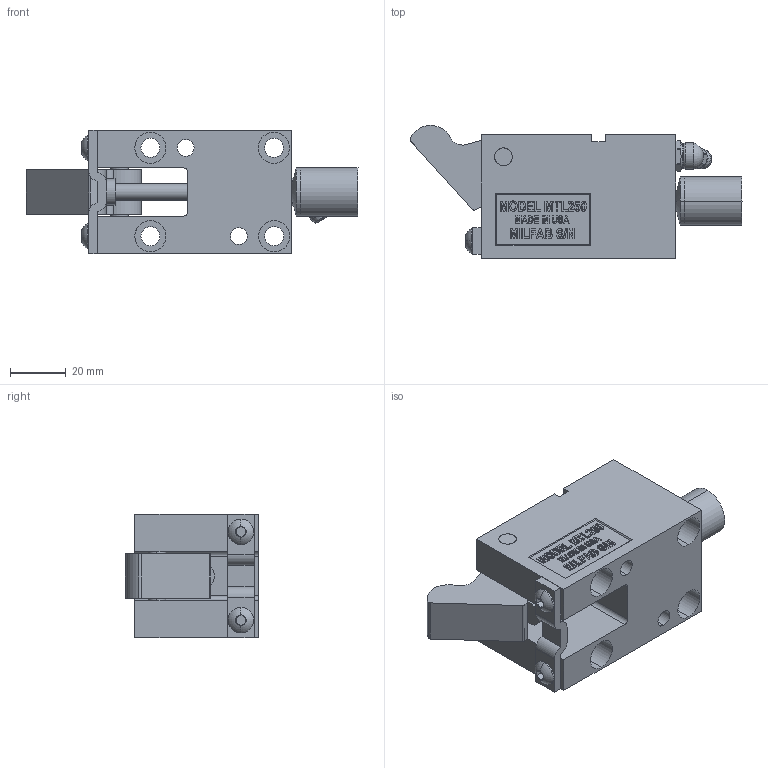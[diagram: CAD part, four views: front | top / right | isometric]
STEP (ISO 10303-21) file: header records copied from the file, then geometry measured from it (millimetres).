
FILE_DESCRIPTION (( 'STEP AP214' ), '1' );
FILE_NAME ('MTL25045-O.STEP', '2014-01-08T19:19:18', ( 'user' ), ( '' ), 'SwSTEP 2.0', 'SolidWorks 2009', '' );
FILE_SCHEMA (( 'AUTOMOTIVE_DESIGN' ));
Length unit declared in the file: inch
Products named in the file (11): 250-OFFSET TRIGGER; GREASE ZERK; MTL25045-O; MTL250-BODY; M-I-250-POINT; 250 PIVOT PIN; ML250-PUNCH; 10-SCREW; 250-I-STRAP; 250-WASHER; 250 STRIPPER OPEN
Assembly tree (11 placements, depth 2):
  MTL25045-O
    250 PIVOT PIN
    250-OFFSET TRIGGER
    250 STRIPPER OPEN
    ML250-PUNCH
    10-SCREW  x2
    GREASE ZERK
    MTL250-BODY
    250-WASHER
    M-I-250-POINT
    250-I-STRAP
Bounding box: 119.25 x 47.85 x 44.45 mm (x, y, z)
Volume: 115365.8 mm3; surface area: 37440.7 mm2
Topology: 11 solids, 11 shells, 595 faces, 1531 edges, 1004 vertices
Faces by surface type: plane 354, cylinder 100, bspline 87, cone 30, torus 24
Entity records: 23106 total; most frequent: CARTESIAN_POINT 9046, ORIENTED_EDGE 2978, DIRECTION 2467, EDGE_CURVE 1489, VECTOR 999, LINE 999, VERTEX_POINT 980, AXIS2_PLACEMENT_3D 734
